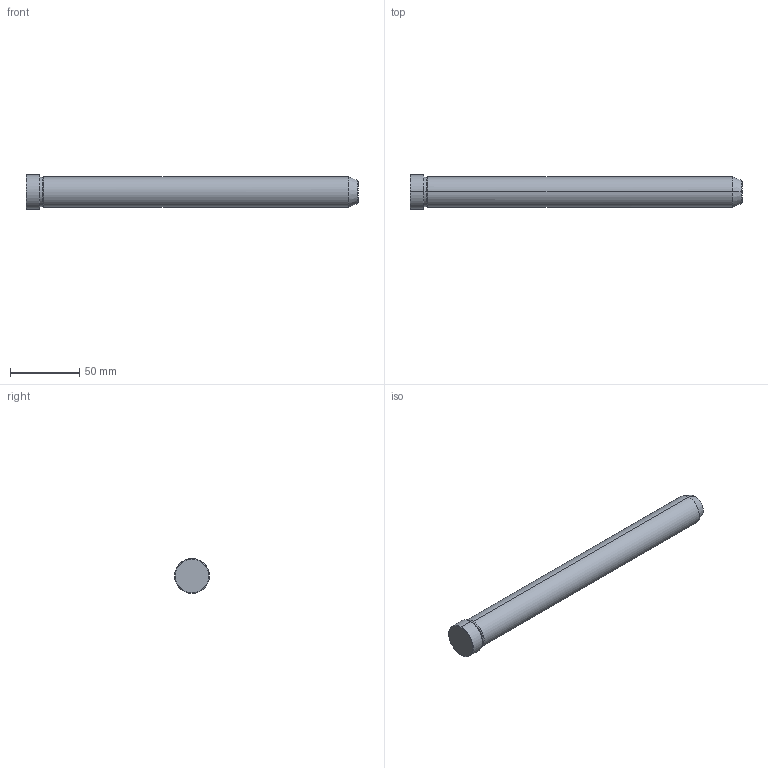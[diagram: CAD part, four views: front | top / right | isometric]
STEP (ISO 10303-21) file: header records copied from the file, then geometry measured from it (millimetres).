
FILE_DESCRIPTION(('CATIA V5 STEP Exchange'),'2;1');
FILE_NAME('C:\Users\Utente\Desktop\IO LAVORO\3D X SITO CF\X SITO\PLASTICA\549\549-22X240.stp','2021-12-13T12:54:51+00:00',('none'),('none'),'CATIA Version 5 Release 20 GA (IN-10)','CATIA V5 STEP AP203','none');
FILE_SCHEMA(('CONFIG_CONTROL_DESIGN'));
Length unit declared in the file: millimetre
Products named in the file (1): 549-22X240
Bounding box: 240 x 25 x 25 mm (x, y, z)
Volume: 91620.3 mm3; surface area: 17463 mm2
Topology: 1 solids, 1 shells, 19 faces, 56 edges, 40 vertices
Faces by surface type: cone 8, cylinder 6, plane 3, torus 2
Entity records: 736 total; most frequent: CARTESIAN_POINT 192, ORIENTED_EDGE 112, DIRECTION 86, EDGE_CURVE 56, AXIS2_PLACEMENT_3D 54, VERTEX_POINT 40, CIRCLE 34, EDGE_LOOP 20
